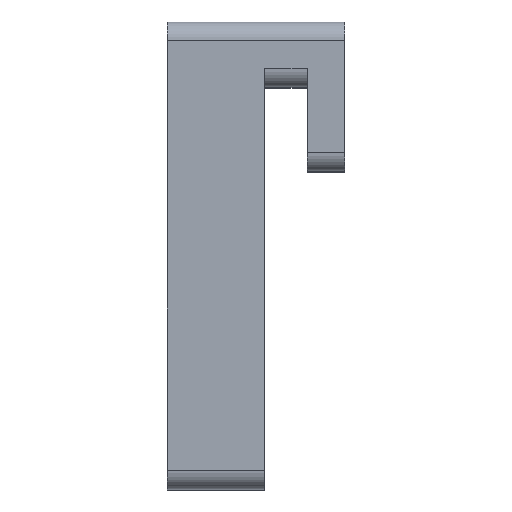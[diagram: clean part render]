
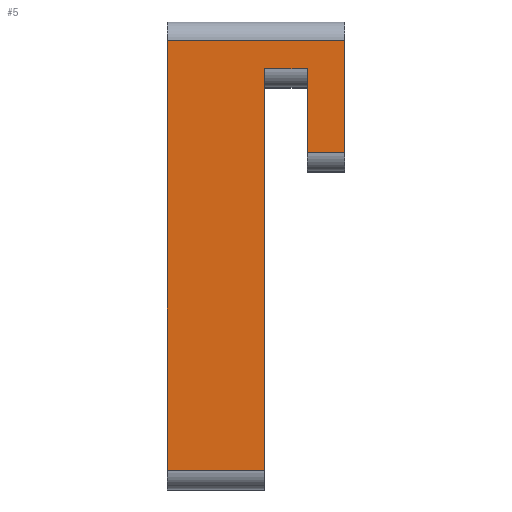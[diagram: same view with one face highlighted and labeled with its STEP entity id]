
A CAD part, top view. The second image highlights one B-rep face of the part: STEP entity #5.
In plain terms, the highlighted planar face has unit normal (0, 0, 1).
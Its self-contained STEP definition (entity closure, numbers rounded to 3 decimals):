
#5 = ADVANCED_FACE ( 'NONE', ( #479 ), #54, .F. ) ;
#35 = CARTESIAN_POINT ( 'NONE',  ( 0., 27., 17.5 ) ) ;
#41 = CARTESIAN_POINT ( 'NONE',  ( 0., 6.5, 17.5 ) ) ;
#54 = PLANE ( 'NONE',  #991 ) ;
#58 = CARTESIAN_POINT ( 'NONE',  ( 2.3, 22.5, 17.5 ) ) ;
#111 = VECTOR ( 'NONE', #744, 1000. ) ;
#122 = CARTESIAN_POINT ( 'NONE',  ( 0., 6.5, 17.5 ) ) ;
#216 = CARTESIAN_POINT ( 'NONE',  ( 4.3, 30.5, 17.5 ) ) ;
#220 = CARTESIAN_POINT ( 'NONE',  ( 0., 29.5, 17.5 ) ) ;
#244 = LINE ( 'NONE', #41, #1064 ) ;
#249 = VECTOR ( 'NONE', #258, 1000. ) ;
#258 = DIRECTION ( 'NONE',  ( 0., -1., 0. ) ) ;
#265 = EDGE_CURVE ( 'NONE', #1203, #516, #1243, .T. ) ;
#273 = EDGE_CURVE ( 'NONE', #307, #1203, #1179, .T. ) ;
#307 = VERTEX_POINT ( 'NONE', #966 ) ;
#312 = EDGE_CURVE ( 'NONE', #516, #1274, #244, .T. ) ;
#316 = CARTESIAN_POINT ( 'NONE',  ( -5.2, 6.5, 17.5 ) ) ;
#317 = CARTESIAN_POINT ( 'NONE',  ( -5.2, 29.5, 17.5 ) ) ;
#350 = VECTOR ( 'NONE', #630, 1000. ) ;
#369 = LINE ( 'NONE', #679, #398 ) ;
#370 = EDGE_LOOP ( 'NONE', ( #926, #404, #1143, #1299, #996, #1137, #1152, #589 ) ) ;
#393 = LINE ( 'NONE', #790, #1084 ) ;
#398 = VECTOR ( 'NONE', #573, 1000. ) ;
#404 = ORIENTED_EDGE ( 'NONE', *, *, #773, .T. ) ;
#470 = CARTESIAN_POINT ( 'NONE',  ( 0., 0., 17.5 ) ) ;
#479 = FACE_OUTER_BOUND ( 'NONE', #370, .T. ) ;
#516 = VERTEX_POINT ( 'NONE', #316 ) ;
#535 = DIRECTION ( 'NONE',  ( 0., -1., 0. ) ) ;
#541 = VERTEX_POINT ( 'NONE', #1215 ) ;
#573 = DIRECTION ( 'NONE',  ( 1., 0., 0. ) ) ;
#588 = CARTESIAN_POINT ( 'NONE',  ( 0., 28., 17.5 ) ) ;
#589 = ORIENTED_EDGE ( 'NONE', *, *, #662, .T. ) ;
#630 = DIRECTION ( 'NONE',  ( 0., 1., 0. ) ) ;
#655 = LINE ( 'NONE', #35, #1109 ) ;
#662 = EDGE_CURVE ( 'NONE', #1274, #1026, #655, .T. ) ;
#679 = CARTESIAN_POINT ( 'NONE',  ( 0., 23.5, 17.5 ) ) ;
#687 = DIRECTION ( 'NONE',  ( 1., 0., 0. ) ) ;
#744 = DIRECTION ( 'NONE',  ( -1., 0., 0. ) ) ;
#773 = EDGE_CURVE ( 'NONE', #1049, #541, #978, .T. ) ;
#779 = EDGE_CURVE ( 'NONE', #541, #892, #369, .T. ) ;
#783 = CARTESIAN_POINT ( 'NONE',  ( 4.3, 23.5, 17.5 ) ) ;
#790 = CARTESIAN_POINT ( 'NONE',  ( 0., 28., 17.5 ) ) ;
#870 = DIRECTION ( 'NONE',  ( 0., 0., -1. ) ) ;
#886 = DIRECTION ( 'NONE',  ( -1., 0., 0. ) ) ;
#892 = VERTEX_POINT ( 'NONE', #783 ) ;
#926 = ORIENTED_EDGE ( 'NONE', *, *, #969, .T. ) ;
#966 = CARTESIAN_POINT ( 'NONE',  ( 4.3, 29.5, 17.5 ) ) ;
#969 = EDGE_CURVE ( 'NONE', #1026, #1049, #393, .T. ) ;
#978 = LINE ( 'NONE', #58, #249 ) ;
#991 = AXIS2_PLACEMENT_3D ( 'NONE', #470, #870, #886 ) ;
#996 = ORIENTED_EDGE ( 'NONE', *, *, #273, .T. ) ;
#1026 = VERTEX_POINT ( 'NONE', #588 ) ;
#1049 = VERTEX_POINT ( 'NONE', #1092 ) ;
#1064 = VECTOR ( 'NONE', #1253, 1000. ) ;
#1084 = VECTOR ( 'NONE', #687, 1000. ) ;
#1092 = CARTESIAN_POINT ( 'NONE',  ( 2.3, 28., 17.5 ) ) ;
#1109 = VECTOR ( 'NONE', #1251, 1000. ) ;
#1137 = ORIENTED_EDGE ( 'NONE', *, *, #265, .T. ) ;
#1140 = LINE ( 'NONE', #216, #350 ) ;
#1143 = ORIENTED_EDGE ( 'NONE', *, *, #779, .T. ) ;
#1144 = CARTESIAN_POINT ( 'NONE',  ( -5.2, 5.5, 17.5 ) ) ;
#1152 = ORIENTED_EDGE ( 'NONE', *, *, #312, .T. ) ;
#1179 = LINE ( 'NONE', #220, #111 ) ;
#1203 = VERTEX_POINT ( 'NONE', #317 ) ;
#1215 = CARTESIAN_POINT ( 'NONE',  ( 2.3, 23.5, 17.5 ) ) ;
#1243 = LINE ( 'NONE', #1144, #1290 ) ;
#1251 = DIRECTION ( 'NONE',  ( 0., 1., 0. ) ) ;
#1253 = DIRECTION ( 'NONE',  ( 1., 0., 0. ) ) ;
#1274 = VERTEX_POINT ( 'NONE', #122 ) ;
#1285 = EDGE_CURVE ( 'NONE', #892, #307, #1140, .T. ) ;
#1290 = VECTOR ( 'NONE', #535, 1000. ) ;
#1299 = ORIENTED_EDGE ( 'NONE', *, *, #1285, .T. ) ;
